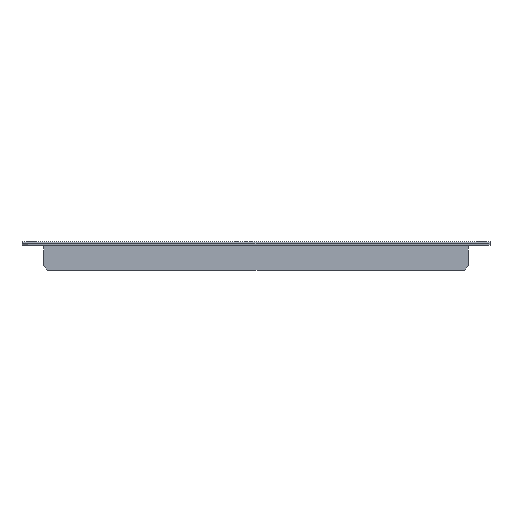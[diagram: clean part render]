
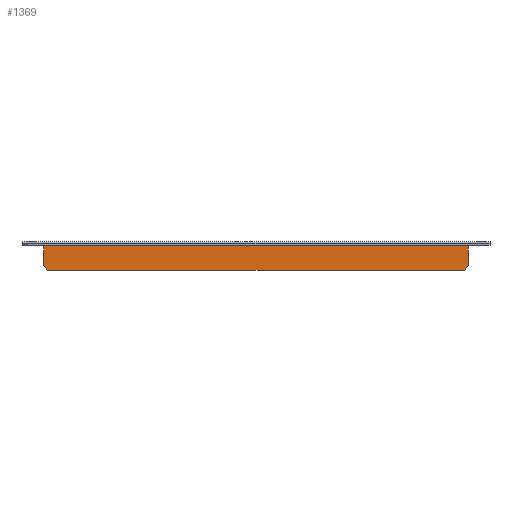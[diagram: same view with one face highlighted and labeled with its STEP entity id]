
A CAD part, top view. The second image highlights one B-rep face of the part: STEP entity #1369.
In plain terms, the highlighted planar face has unit normal (0, 0, 1).
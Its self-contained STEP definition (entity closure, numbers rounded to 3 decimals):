
#4 = EDGE_CURVE ( 'NONE', #287, #482, #1271, .T. ) ;
#18 = ORIENTED_EDGE ( 'NONE', *, *, #31, .F. ) ;
#31 = EDGE_CURVE ( 'NONE', #1376, #1492, #475, .T. ) ;
#36 = CARTESIAN_POINT ( 'NONE',  ( 142.45, -17.8, -1.2 ) ) ;
#95 = LINE ( 'NONE', #1149, #385 ) ;
#153 = EDGE_CURVE ( 'NONE', #1376, #213, #1164, .T. ) ;
#154 = EDGE_LOOP ( 'NONE', ( #308, #944, #18, #1306, #335, #1045 ) ) ;
#158 = CARTESIAN_POINT ( 'NONE',  ( -145.45, -1.2, -1.2 ) ) ;
#213 = VERTEX_POINT ( 'NONE', #1327 ) ;
#220 = CARTESIAN_POINT ( 'NONE',  ( 145.45, -17.8, -1.2 ) ) ;
#227 = VECTOR ( 'NONE', #1523, 1000. ) ;
#287 = VERTEX_POINT ( 'NONE', #1470 ) ;
#297 = AXIS2_PLACEMENT_3D ( 'NONE', #1043, #658, #1541 ) ;
#308 = ORIENTED_EDGE ( 'NONE', *, *, #473, .F. ) ;
#330 = CARTESIAN_POINT ( 'NONE',  ( -145.45, -14.8, -1.2 ) ) ;
#335 = ORIENTED_EDGE ( 'NONE', *, *, #769, .F. ) ;
#385 = VECTOR ( 'NONE', #1383, 1000. ) ;
#436 = CARTESIAN_POINT ( 'NONE',  ( -142.45, -17.8, -1.2 ) ) ;
#458 = EDGE_CURVE ( 'NONE', #863, #1492, #95, .T. ) ;
#473 = EDGE_CURVE ( 'NONE', #863, #287, #909, .T. ) ;
#475 = LINE ( 'NONE', #1174, #1227 ) ;
#482 = VERTEX_POINT ( 'NONE', #1502 ) ;
#531 = VECTOR ( 'NONE', #1059, 1000. ) ;
#639 = CARTESIAN_POINT ( 'NONE',  ( -145.45, -1., -1.2 ) ) ;
#658 = DIRECTION ( 'NONE',  ( 0., 0., -1. ) ) ;
#701 = DIRECTION ( 'NONE',  ( -1., 0., 0. ) ) ;
#769 = EDGE_CURVE ( 'NONE', #482, #213, #942, .T. ) ;
#789 = PLANE ( 'NONE',  #297 ) ;
#823 = VECTOR ( 'NONE', #1239, 1000. ) ;
#863 = VERTEX_POINT ( 'NONE', #330 ) ;
#909 = LINE ( 'NONE', #639, #227 ) ;
#942 = LINE ( 'NONE', #220, #823 ) ;
#944 = ORIENTED_EDGE ( 'NONE', *, *, #458, .T. ) ;
#1036 = VECTOR ( 'NONE', #1430, 1000. ) ;
#1043 = CARTESIAN_POINT ( 'NONE',  ( 0., 0., -1.2 ) ) ;
#1045 = ORIENTED_EDGE ( 'NONE', *, *, #4, .F. ) ;
#1059 = DIRECTION ( 'NONE',  ( 1., 0., 0. ) ) ;
#1074 = CARTESIAN_POINT ( 'NONE',  ( 142.45, -17.8, -1.2 ) ) ;
#1149 = CARTESIAN_POINT ( 'NONE',  ( -145.45, -14.8, -1.2 ) ) ;
#1151 = FACE_OUTER_BOUND ( 'NONE', #154, .T. ) ;
#1164 = LINE ( 'NONE', #36, #1036 ) ;
#1174 = CARTESIAN_POINT ( 'NONE',  ( -145.45, -17.8, -1.2 ) ) ;
#1227 = VECTOR ( 'NONE', #701, 1000. ) ;
#1239 = DIRECTION ( 'NONE',  ( 0., -1., 0. ) ) ;
#1271 = LINE ( 'NONE', #158, #531 ) ;
#1306 = ORIENTED_EDGE ( 'NONE', *, *, #153, .T. ) ;
#1327 = CARTESIAN_POINT ( 'NONE',  ( 145.45, -14.8, -1.2 ) ) ;
#1369 = ADVANCED_FACE ( 'NONE', ( #1151 ), #789, .F. ) ;
#1376 = VERTEX_POINT ( 'NONE', #1074 ) ;
#1383 = DIRECTION ( 'NONE',  ( 0.707, -0.707, 0. ) ) ;
#1430 = DIRECTION ( 'NONE',  ( 0.707, 0.707, 0. ) ) ;
#1470 = CARTESIAN_POINT ( 'NONE',  ( -145.45, -1.2, -1.2 ) ) ;
#1492 = VERTEX_POINT ( 'NONE', #436 ) ;
#1502 = CARTESIAN_POINT ( 'NONE',  ( 145.45, -1.2, -1.2 ) ) ;
#1523 = DIRECTION ( 'NONE',  ( 0., 1., 0. ) ) ;
#1541 = DIRECTION ( 'NONE',  ( 0., 1., 0. ) ) ;
